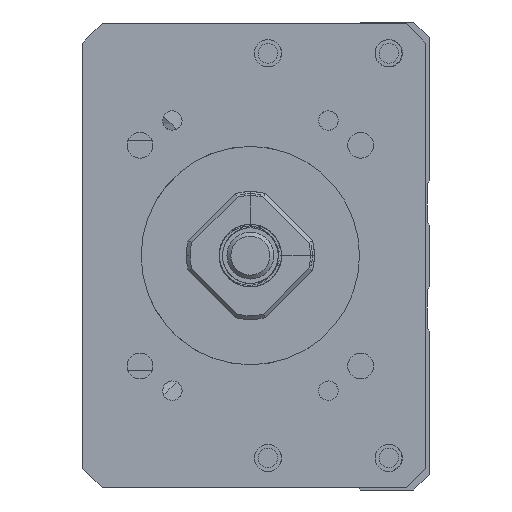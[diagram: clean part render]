
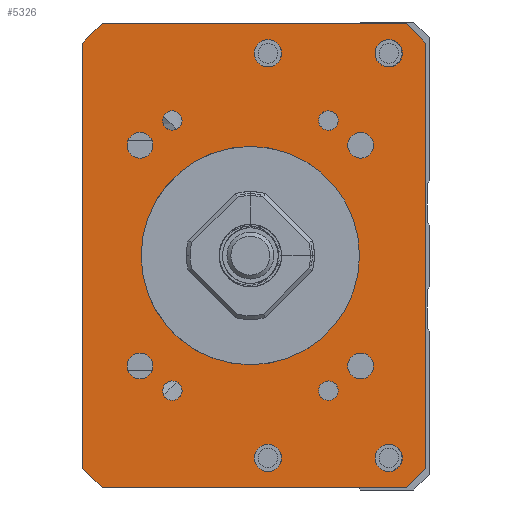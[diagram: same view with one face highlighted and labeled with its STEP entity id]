
A CAD part, left-side view. The second image highlights one B-rep face of the part: STEP entity #5326.
In plain terms, the highlighted planar face has unit normal (-1, 0, 0).
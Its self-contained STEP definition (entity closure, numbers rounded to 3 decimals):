
#4180=FACE_BOUND('',#6968,.T.);
#4181=FACE_BOUND('',#6969,.T.);
#4182=FACE_BOUND('',#6970,.T.);
#4183=FACE_BOUND('',#6971,.T.);
#4184=FACE_BOUND('',#6972,.T.);
#4185=FACE_BOUND('',#6973,.T.);
#4186=FACE_BOUND('',#6974,.T.);
#4187=FACE_BOUND('',#6975,.T.);
#4188=FACE_BOUND('',#6976,.T.);
#4189=FACE_BOUND('',#6977,.T.);
#4190=FACE_BOUND('',#6978,.T.);
#4191=FACE_BOUND('',#6979,.T.);
#4192=FACE_BOUND('',#6980,.T.);
#4193=FACE_BOUND('',#6981,.T.);
#4742=CIRCLE('',#15168,14.);
#4751=CIRCLE('',#15179,1.65);
#4752=CIRCLE('',#15180,1.65);
#4753=CIRCLE('',#15181,1.65);
#4754=CIRCLE('',#15182,1.65);
#4755=CIRCLE('',#15183,1.25);
#4756=CIRCLE('',#15184,1.75);
#4757=CIRCLE('',#15185,1.25);
#4758=CIRCLE('',#15186,1.75);
#4759=CIRCLE('',#15187,1.25);
#4760=CIRCLE('',#15188,1.75);
#4761=CIRCLE('',#15189,1.75);
#4762=CIRCLE('',#15190,1.25);
#5326=ADVANCED_FACE('',(#4180,#4181,#4182,#4183,#4184,#4185,#4186,#4187,
#4188,#4189,#4190,#4191,#4192,#4193),#5868,.F.);
#5868=PLANE('',#15191);
#6968=EDGE_LOOP('',(#9100));
#6969=EDGE_LOOP('',(#9101));
#6970=EDGE_LOOP('',(#9102));
#6971=EDGE_LOOP('',(#9103));
#6972=EDGE_LOOP('',(#9104));
#6973=EDGE_LOOP('',(#9105));
#6974=EDGE_LOOP('',(#9106));
#6975=EDGE_LOOP('',(#9107));
#6976=EDGE_LOOP('',(#9108));
#6977=EDGE_LOOP('',(#9109,#9110,#9111,#9112,#9113,#9114,#9115,#9116));
#6978=EDGE_LOOP('',(#9117));
#6979=EDGE_LOOP('',(#9118));
#6980=EDGE_LOOP('',(#9119));
#6981=EDGE_LOOP('',(#9120));
#9100=ORIENTED_EDGE('',*,*,#12253,.F.);
#9101=ORIENTED_EDGE('',*,*,#12254,.F.);
#9102=ORIENTED_EDGE('',*,*,#12255,.F.);
#9103=ORIENTED_EDGE('',*,*,#12256,.F.);
#9104=ORIENTED_EDGE('',*,*,#12257,.F.);
#9105=ORIENTED_EDGE('',*,*,#12258,.T.);
#9106=ORIENTED_EDGE('',*,*,#12259,.F.);
#9107=ORIENTED_EDGE('',*,*,#12260,.F.);
#9108=ORIENTED_EDGE('',*,*,#12261,.F.);
#9109=ORIENTED_EDGE('',*,*,#12250,.T.);
#9110=ORIENTED_EDGE('',*,*,#12262,.T.);
#9111=ORIENTED_EDGE('',*,*,#12263,.F.);
#9112=ORIENTED_EDGE('',*,*,#12264,.T.);
#9113=ORIENTED_EDGE('',*,*,#12265,.F.);
#9114=ORIENTED_EDGE('',*,*,#12266,.T.);
#9115=ORIENTED_EDGE('',*,*,#12267,.T.);
#9116=ORIENTED_EDGE('',*,*,#12268,.T.);
#9117=ORIENTED_EDGE('',*,*,#12269,.F.);
#9118=ORIENTED_EDGE('',*,*,#12270,.F.);
#9119=ORIENTED_EDGE('',*,*,#12271,.F.);
#9120=ORIENTED_EDGE('',*,*,#12230,.F.);
#10958=VERTEX_POINT('',#20983);
#10978=VERTEX_POINT('',#21059);
#10979=VERTEX_POINT('',#21061);
#10981=VERTEX_POINT('',#21067);
#10982=VERTEX_POINT('',#21069);
#10983=VERTEX_POINT('',#21071);
#10984=VERTEX_POINT('',#21073);
#10985=VERTEX_POINT('',#21075);
#10986=VERTEX_POINT('',#21077);
#10987=VERTEX_POINT('',#21079);
#10988=VERTEX_POINT('',#21081);
#10989=VERTEX_POINT('',#21083);
#10990=VERTEX_POINT('',#21085);
#10991=VERTEX_POINT('',#21087);
#10992=VERTEX_POINT('',#21089);
#10993=VERTEX_POINT('',#21091);
#10994=VERTEX_POINT('',#21093);
#10995=VERTEX_POINT('',#21095);
#10996=VERTEX_POINT('',#21098);
#10997=VERTEX_POINT('',#21100);
#10998=VERTEX_POINT('',#21102);
#12230=EDGE_CURVE('',#10958,#10958,#4742,.T.);
#12250=EDGE_CURVE('',#10979,#10978,#13460,.T.);
#12253=EDGE_CURVE('',#10981,#10981,#4751,.T.);
#12254=EDGE_CURVE('',#10982,#10982,#4752,.T.);
#12255=EDGE_CURVE('',#10983,#10983,#4753,.T.);
#12256=EDGE_CURVE('',#10984,#10984,#4754,.T.);
#12257=EDGE_CURVE('',#10985,#10985,#4755,.T.);
#12258=EDGE_CURVE('',#10986,#10986,#4756,.T.);
#12259=EDGE_CURVE('',#10987,#10987,#4757,.T.);
#12260=EDGE_CURVE('',#10988,#10988,#4758,.T.);
#12261=EDGE_CURVE('',#10989,#10989,#4759,.T.);
#12262=EDGE_CURVE('',#10978,#10990,#13462,.T.);
#12263=EDGE_CURVE('',#10991,#10990,#13463,.T.);
#12264=EDGE_CURVE('',#10991,#10992,#13464,.T.);
#12265=EDGE_CURVE('',#10993,#10992,#13465,.T.);
#12266=EDGE_CURVE('',#10993,#10994,#13466,.T.);
#12267=EDGE_CURVE('',#10994,#10995,#13467,.T.);
#12268=EDGE_CURVE('',#10995,#10979,#13468,.T.);
#12269=EDGE_CURVE('',#10996,#10996,#4760,.T.);
#12270=EDGE_CURVE('',#10997,#10997,#4761,.T.);
#12271=EDGE_CURVE('',#10998,#10998,#4762,.T.);
#13460=LINE('',#21060,#14317);
#13462=LINE('',#21084,#14319);
#13463=LINE('',#21086,#14320);
#13464=LINE('',#21088,#14321);
#13465=LINE('',#21090,#14322);
#13466=LINE('',#21092,#14323);
#13467=LINE('',#21094,#14324);
#13468=LINE('',#21096,#14325);
#14317=VECTOR('',#17445,1.);
#14319=VECTOR('',#17469,1.);
#14320=VECTOR('',#17470,1.);
#14321=VECTOR('',#17471,1.);
#14322=VECTOR('',#17472,1.);
#14323=VECTOR('',#17473,1.);
#14324=VECTOR('',#17474,1.);
#14325=VECTOR('',#17475,1.);
#15168=AXIS2_PLACEMENT_3D('',#20982,#17419,#17420);
#15179=AXIS2_PLACEMENT_3D('',#21066,#17451,#17452);
#15180=AXIS2_PLACEMENT_3D('',#21068,#17453,#17454);
#15181=AXIS2_PLACEMENT_3D('',#21070,#17455,#17456);
#15182=AXIS2_PLACEMENT_3D('',#21072,#17457,#17458);
#15183=AXIS2_PLACEMENT_3D('',#21074,#17459,#17460);
#15184=AXIS2_PLACEMENT_3D('',#21076,#17461,#17462);
#15185=AXIS2_PLACEMENT_3D('',#21078,#17463,#17464);
#15186=AXIS2_PLACEMENT_3D('',#21080,#17465,#17466);
#15187=AXIS2_PLACEMENT_3D('',#21082,#17467,#17468);
#15188=AXIS2_PLACEMENT_3D('',#21097,#17476,#17477);
#15189=AXIS2_PLACEMENT_3D('',#21099,#17478,#17479);
#15190=AXIS2_PLACEMENT_3D('',#21101,#17480,#17481);
#15191=AXIS2_PLACEMENT_3D('',#21103,#17482,#17483);
#17419=DIRECTION('',(-1.,0.,0.));
#17420=DIRECTION('',(0.,1.,0.));
#17445=DIRECTION('',(0.,0.,-1.));
#17451=DIRECTION('',(-1.,0.,0.));
#17452=DIRECTION('',(0.,0.,1.));
#17453=DIRECTION('',(-1.,0.,0.));
#17454=DIRECTION('',(0.,0.,1.));
#17455=DIRECTION('',(-1.,0.,0.));
#17456=DIRECTION('',(0.,0.,1.));
#17457=DIRECTION('',(-1.,0.,0.));
#17458=DIRECTION('',(0.,0.,1.));
#17459=DIRECTION('',(-1.,0.,0.));
#17460=DIRECTION('',(0.,1.,0.));
#17461=DIRECTION('',(1.,0.,0.));
#17462=DIRECTION('',(0.,0.,1.));
#17463=DIRECTION('',(-1.,0.,0.));
#17464=DIRECTION('',(0.,1.,0.));
#17465=DIRECTION('',(-1.,0.,0.));
#17466=DIRECTION('',(0.,0.,1.));
#17467=DIRECTION('',(-1.,0.,0.));
#17468=DIRECTION('',(0.,1.,0.));
#17469=DIRECTION('',(0.,-0.707,-0.707));
#17470=DIRECTION('',(0.,1.,0.));
#17471=DIRECTION('',(0.,-0.707,0.707));
#17472=DIRECTION('',(0.,0.,-1.));
#17473=DIRECTION('',(0.,0.707,0.707));
#17474=DIRECTION('',(0.,1.,0.));
#17475=DIRECTION('',(0.,0.707,-0.707));
#17476=DIRECTION('',(-1.,0.,0.));
#17477=DIRECTION('',(0.,0.,1.));
#17478=DIRECTION('',(-1.,0.,0.));
#17479=DIRECTION('',(0.,0.,1.));
#17480=DIRECTION('',(-1.,0.,0.));
#17481=DIRECTION('',(0.,1.,0.));
#17482=DIRECTION('',(1.,0.,0.));
#17483=DIRECTION('',(0.,1.,0.));
#20982=CARTESIAN_POINT('',(-211.,0.,-100.));
#20983=CARTESIAN_POINT('',(-211.,14.,-100.));
#21059=CARTESIAN_POINT('',(-211.,21.499,-127.25));
#21060=CARTESIAN_POINT('',(-211.,21.499,-70.25));
#21061=CARTESIAN_POINT('',(-211.,21.499,-72.75));
#21066=CARTESIAN_POINT('',(-211.,14.142,-85.858));
#21067=CARTESIAN_POINT('',(-211.,14.142,-84.208));
#21068=CARTESIAN_POINT('',(-211.,-14.142,-85.858));
#21069=CARTESIAN_POINT('',(-211.,-14.142,-84.208));
#21070=CARTESIAN_POINT('',(-211.,14.142,-114.142));
#21071=CARTESIAN_POINT('',(-211.,14.142,-112.492));
#21072=CARTESIAN_POINT('',(-211.,-14.142,-114.142));
#21073=CARTESIAN_POINT('',(-211.,-14.142,-112.492));
#21074=CARTESIAN_POINT('',(-211.,-10.,-117.321));
#21075=CARTESIAN_POINT('',(-211.,-8.75,-117.321));
#21076=CARTESIAN_POINT('',(-211.,-2.25,-125.936));
#21077=CARTESIAN_POINT('',(-211.,-2.25,-124.186));
#21078=CARTESIAN_POINT('',(-211.,10.,-82.679));
#21079=CARTESIAN_POINT('',(-211.,11.25,-82.679));
#21080=CARTESIAN_POINT('',(-211.,-2.25,-74.064));
#21081=CARTESIAN_POINT('',(-211.,-2.25,-72.314));
#21082=CARTESIAN_POINT('',(-211.,10.,-117.321));
#21083=CARTESIAN_POINT('',(-211.,11.25,-117.321));
#21084=CARTESIAN_POINT('',(-211.,18.999,-129.75));
#21085=CARTESIAN_POINT('',(-211.,18.999,-129.75));
#21086=CARTESIAN_POINT('',(-211.,-22.501,-129.75));
#21087=CARTESIAN_POINT('',(-211.,-20.001,-129.75));
#21088=CARTESIAN_POINT('',(-211.,-22.501,-127.25));
#21089=CARTESIAN_POINT('',(-211.,-22.501,-127.25));
#21090=CARTESIAN_POINT('',(-211.,-22.501,-70.25));
#21091=CARTESIAN_POINT('',(-211.,-22.501,-72.75));
#21092=CARTESIAN_POINT('',(-211.,-22.501,-72.75));
#21093=CARTESIAN_POINT('',(-211.,-20.001,-70.25));
#21094=CARTESIAN_POINT('',(-211.,-22.501,-70.25));
#21095=CARTESIAN_POINT('',(-211.,18.999,-70.25));
#21096=CARTESIAN_POINT('',(-211.,18.999,-70.25));
#21097=CARTESIAN_POINT('',(-211.,-17.75,-74.064));
#21098=CARTESIAN_POINT('',(-211.,-17.75,-72.314));
#21099=CARTESIAN_POINT('',(-211.,-17.75,-125.936));
#21100=CARTESIAN_POINT('',(-211.,-17.75,-124.186));
#21101=CARTESIAN_POINT('',(-211.,-10.,-82.679));
#21102=CARTESIAN_POINT('',(-211.,-8.75,-82.679));
#21103=CARTESIAN_POINT('',(-211.,-22.501,-70.25));
